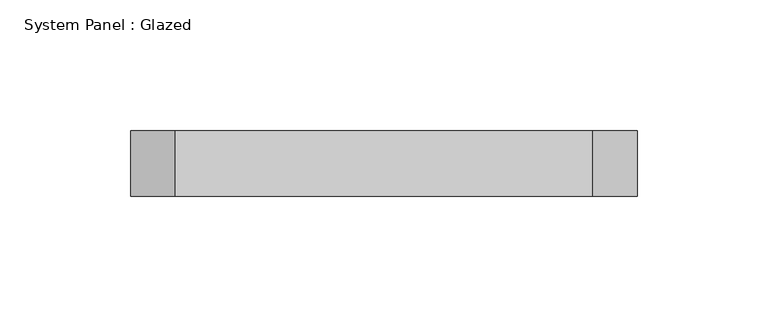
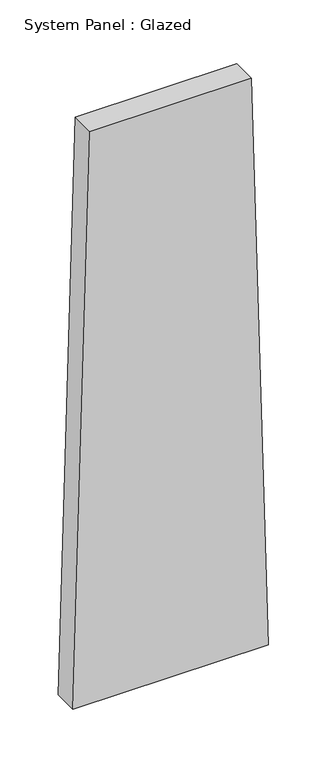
"""IFC4 building model written with IfcOpenShell, lengths in millimetres: plate geometry, System Panel : Glazed."""

from ifc_helpers import new_model, si_unit, frame, origin, place, context, project, spatial, polyline, outline, extrude, source, transform, mapped, element, save


def system_panel_glazed_05db62c8(model_context):
    return source(origin(), model_context, "Body", "SweptSolid", [
        extrude(outline(polyline([(0.0, -96.9162092), (0.0, 96.9162092), (599.7581098, 79.8806656), (599.7581098, -79.8806656), (0.0, -96.9162092)])), frame((0.0, 24.5, 0.0), z_axis=(0.0, 1.0, 0.0), x_axis=(0.0, 0.0, 1.0)), (0.0, 0.0, 1.0), 25.0),
    ])


if __name__ == "__main__":
    model = new_model("IFC4")
    model_context = context("Model", 3, world=origin())
    ifc_project = project(units=[si_unit("LENGTHUNIT", "METRE", prefix="MILLI")], contexts=[model_context])
    site = spatial("IfcSite", under=ifc_project)
    building = spatial("IfcBuilding", under=site)
    placement = place(None, origin())
    system_panel_glazed_shape = system_panel_glazed_05db62c8(model_context)
    element("IfcPlate", 1, ObjectType="System Panel : Glazed", at=placement, inside=building, context=model_context, shape_type="MappedRepresentation", body=[
        mapped(system_panel_glazed_shape, transform((0.0, 0.0, 0.0), x_axis=(1.0, 0.0, 0.0), y_axis=(0.0, 1.0, 0.0), z_axis=(0.0, 0.0, 1.0))),
    ])
    save(model, "model.ifc")
